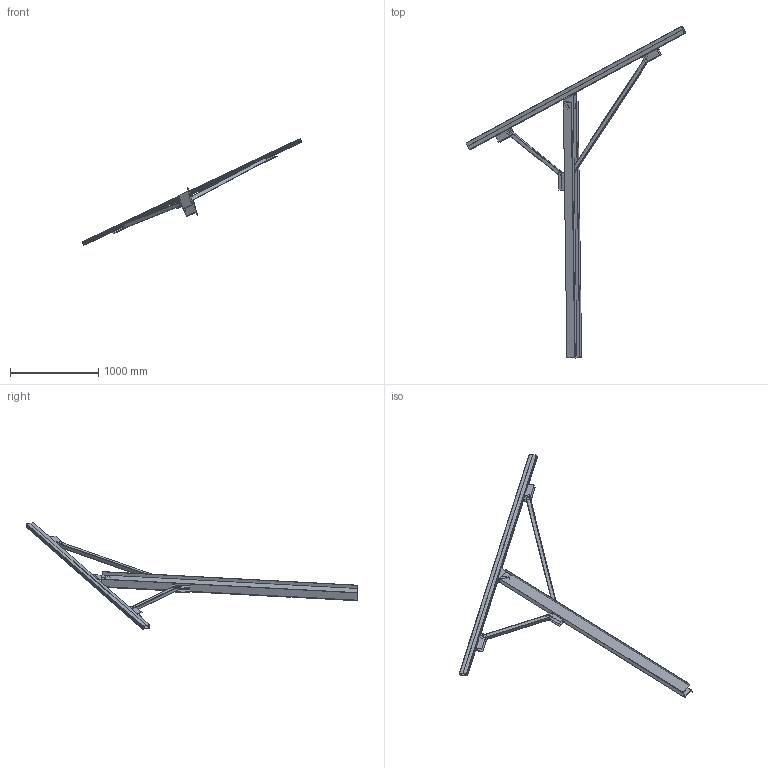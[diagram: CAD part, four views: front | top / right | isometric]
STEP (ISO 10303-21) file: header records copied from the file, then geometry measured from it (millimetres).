
FILE_DESCRIPTION (( 'STEP AP203' ), '1' );
FILE_NAME ('084.106.851.STEP', '2013-01-23T14:01:34', ( 'Alusic' ), ( 'Alusic' ), 'SwSTEP 2.0', 'SolidWorks 2011', '' );
FILE_SCHEMA (( 'CONFIG_CONTROL_DESIGN' ));
Length unit declared in the file: millimetre
Products named in the file (8): 084.106.802; 084.106.851; 084.106.804_l; 084.106.823; 084.106.825; 084.106.822; 084.106.824; 084.106.804
Assembly tree (9 placements, depth 2):
  084.106.851
    084.106.825  x2
    084.106.804
    084.106.823
    084.106.824
    084.106.822  x2
    084.106.804_l
    084.106.802
Bounding box: 2490 x 3758.14 x 1207.65 mm (x, y, z)
Volume: 9958113.6 mm3; surface area: 5689287.9 mm2
Topology: 9 solids, 9 shells, 294 faces, 832 edges, 552 vertices
Faces by surface type: plane 150, cylinder 144
Entity records: 8618 total; most frequent: CARTESIAN_POINT 1412, DIRECTION 1344, ORIENTED_EDGE 1312, EDGE_CURVE 656, AXIS2_PLACEMENT_3D 460, VERTEX_POINT 436, LINE 424, VECTOR 424
